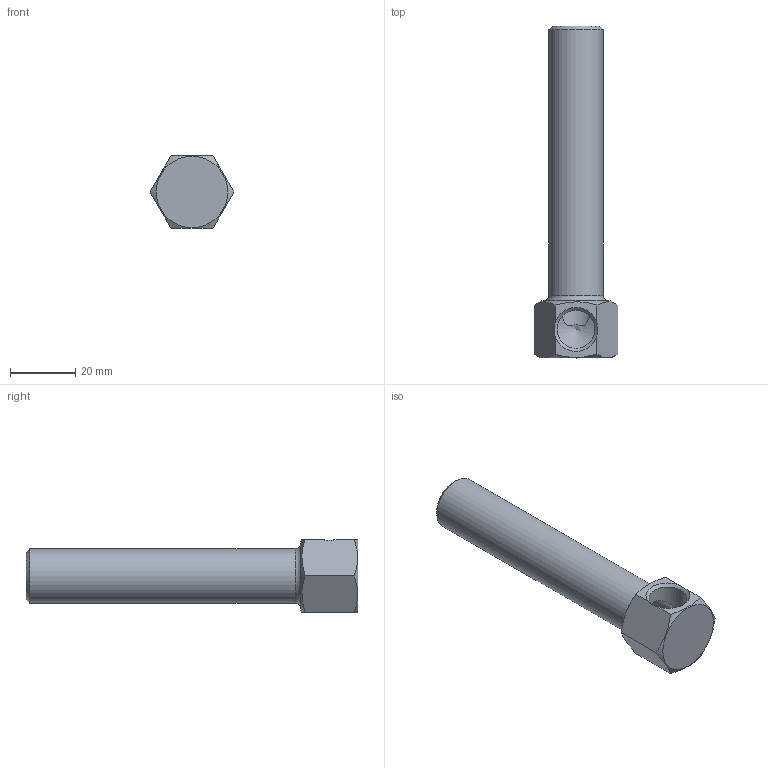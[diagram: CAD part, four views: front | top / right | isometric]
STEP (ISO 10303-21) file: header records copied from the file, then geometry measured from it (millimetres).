
FILE_DESCRIPTION(/* description */ (''),/* implementation_level */ '2;1');
FILE_NAME(/* name */ 'C:/Users/drich/Desktop/1438B-4 v1.step',/* time_stamp */ '2019-12-29T15:28:04-06:00',/* author */ (''),/* organization */ (''),/* preprocessor_version */ 'ST-DEVELOPER v18',/* originating_system */ 'Autodesk Translation Framework v8.12.0.6',/* authorisation */ '');
FILE_SCHEMA (('AUTOMOTIVE_DESIGN { 1 0 10303 214 3 1 1 }'));
Length unit declared in the file: inch
Products named in the file (1): 1438B-4
Bounding box: 25.66 x 101.6 x 22.23 mm (x, y, z)
Volume: 13988.7 mm3; surface area: 10070 mm2
Topology: 1 solids, 1 shells, 23 faces, 62 edges, 40 vertices
Faces by surface type: plane 10, cone 8, cylinder 4, torus 1
Full cylindrical faces by diameter (mm): 11.668 x1, 11.887 x1, 16.537 x1
Entity records: 821 total; most frequent: CARTESIAN_POINT 247, ORIENTED_EDGE 122, DIRECTION 104, EDGE_CURVE 61, AXIS2_PLACEMENT_3D 43, VERTEX_POINT 40, EDGE_LOOP 25, FACE_OUTER_BOUND 23
